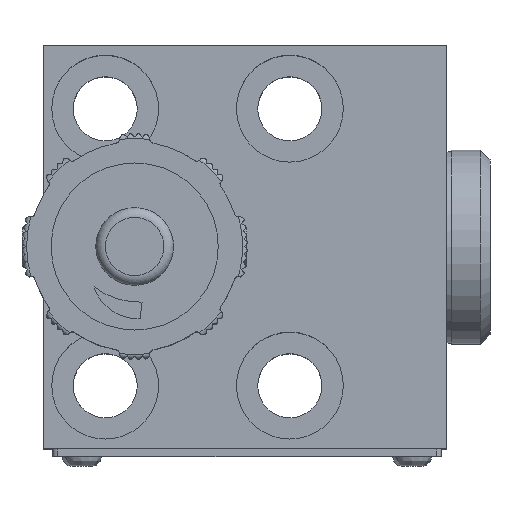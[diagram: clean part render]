
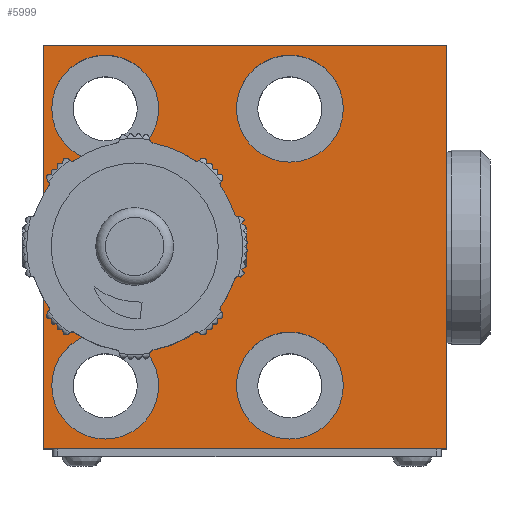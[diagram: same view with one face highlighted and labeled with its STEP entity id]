
A CAD part, top view. The second image highlights one B-rep face of the part: STEP entity #5999.
In plain terms, the highlighted planar face has unit normal (0, 0, 1).
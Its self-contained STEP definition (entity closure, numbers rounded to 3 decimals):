
#1014=LINE('',#23824,#1445);
#1015=LINE('',#23827,#1446);
#1016=LINE('',#23829,#1447);
#1017=LINE('',#23831,#1448);
#1445=VECTOR('',#9330,1.);
#1446=VECTOR('',#9331,1.);
#1447=VECTOR('',#9332,1.);
#1448=VECTOR('',#9333,1.);
#1667=PLANE('',#7587);
#2251=EDGE_LOOP('',(#4093));
#2252=EDGE_LOOP('',(#4094));
#2253=EDGE_LOOP('',(#4095,#4096,#4097,#4098));
#2254=EDGE_LOOP('',(#4099));
#2255=EDGE_LOOP('',(#4100));
#2256=EDGE_LOOP('',(#4101));
#4093=ORIENTED_EDGE('',*,*,#5107,.T.);
#4094=ORIENTED_EDGE('',*,*,#5108,.T.);
#4095=ORIENTED_EDGE('',*,*,#5109,.F.);
#4096=ORIENTED_EDGE('',*,*,#5110,.F.);
#4097=ORIENTED_EDGE('',*,*,#5111,.F.);
#4098=ORIENTED_EDGE('',*,*,#5112,.F.);
#4099=ORIENTED_EDGE('',*,*,#5113,.T.);
#4100=ORIENTED_EDGE('',*,*,#5114,.T.);
#4101=ORIENTED_EDGE('',*,*,#5115,.T.);
#5107=EDGE_CURVE('',#6899,#6899,#5418,.T.);
#5108=EDGE_CURVE('',#6900,#6900,#5419,.T.);
#5109=EDGE_CURVE('',#6901,#6902,#1014,.T.);
#5110=EDGE_CURVE('',#6903,#6901,#1015,.T.);
#5111=EDGE_CURVE('',#6904,#6903,#1016,.T.);
#5112=EDGE_CURVE('',#6902,#6904,#1017,.T.);
#5113=EDGE_CURVE('',#6905,#6905,#5420,.T.);
#5114=EDGE_CURVE('',#6906,#6906,#5421,.T.);
#5115=EDGE_CURVE('',#6907,#6907,#5422,.T.);
#5418=CIRCLE('',#7582,5.5);
#5419=CIRCLE('',#7583,5.5);
#5420=CIRCLE('',#7584,5.5);
#5421=CIRCLE('',#7585,5.5);
#5422=CIRCLE('',#7586,8.5);
#5999=ADVANCED_FACE('',(#6211,#6212,#6213,#6214,#6215,#6216),#1667,.T.);
#6211=FACE_BOUND('',#2251,.T.);
#6212=FACE_BOUND('',#2252,.T.);
#6213=FACE_BOUND('',#2253,.T.);
#6214=FACE_BOUND('',#2254,.T.);
#6215=FACE_BOUND('',#2255,.T.);
#6216=FACE_BOUND('',#2256,.T.);
#6899=VERTEX_POINT('',#23821);
#6900=VERTEX_POINT('',#23823);
#6901=VERTEX_POINT('',#23825);
#6902=VERTEX_POINT('',#23826);
#6903=VERTEX_POINT('',#23828);
#6904=VERTEX_POINT('',#23830);
#6905=VERTEX_POINT('',#23833);
#6906=VERTEX_POINT('',#23835);
#6907=VERTEX_POINT('',#23837);
#7582=AXIS2_PLACEMENT_3D('',#23820,#9326,#9327);
#7583=AXIS2_PLACEMENT_3D('',#23822,#9328,#9329);
#7584=AXIS2_PLACEMENT_3D('',#23832,#9334,#9335);
#7585=AXIS2_PLACEMENT_3D('',#23834,#9336,#9337);
#7586=AXIS2_PLACEMENT_3D('',#23836,#9338,#9339);
#7587=AXIS2_PLACEMENT_3D('',#23838,#9340,#9341);
#9326=DIRECTION('',(0.,0.,-1.));
#9327=DIRECTION('',(1.,0.,0.));
#9328=DIRECTION('',(0.,0.,-1.));
#9329=DIRECTION('',(1.,0.,0.));
#9330=DIRECTION('',(-1.,0.,0.));
#9331=DIRECTION('',(0.,-1.,0.));
#9332=DIRECTION('',(1.,0.,0.));
#9333=DIRECTION('',(0.,1.,0.));
#9334=DIRECTION('',(0.,0.,-1.));
#9335=DIRECTION('',(1.,0.,0.));
#9336=DIRECTION('',(0.,0.,-1.));
#9337=DIRECTION('',(1.,0.,0.));
#9338=DIRECTION('',(0.,0.,-1.));
#9339=DIRECTION('',(-1.,0.,0.));
#9340=DIRECTION('',(0.,0.,1.));
#9341=DIRECTION('',(-1.,0.,0.));
#23820=CARTESIAN_POINT('',(-39.473,49.073,23.));
#23821=CARTESIAN_POINT('',(-33.973,49.073,23.));
#23822=CARTESIAN_POINT('',(-39.473,20.573,23.));
#23823=CARTESIAN_POINT('',(-33.973,20.573,23.));
#23824=CARTESIAN_POINT('',(-23.373,14.073,23.));
#23825=CARTESIAN_POINT('',(-23.373,14.073,23.));
#23826=CARTESIAN_POINT('',(-64.873,14.073,23.));
#23827=CARTESIAN_POINT('',(-23.373,55.573,23.));
#23828=CARTESIAN_POINT('',(-23.373,55.573,23.));
#23829=CARTESIAN_POINT('',(-64.873,55.573,23.));
#23830=CARTESIAN_POINT('',(-64.873,55.573,23.));
#23831=CARTESIAN_POINT('',(-64.873,34.823,23.));
#23832=CARTESIAN_POINT('',(-58.473,20.573,23.));
#23833=CARTESIAN_POINT('',(-52.973,20.573,23.));
#23834=CARTESIAN_POINT('',(-58.473,49.073,23.));
#23835=CARTESIAN_POINT('',(-52.973,49.073,23.));
#23836=CARTESIAN_POINT('',(-55.373,34.823,23.));
#23837=CARTESIAN_POINT('',(-63.873,34.823,23.));
#23838=CARTESIAN_POINT('',(-39.473,49.073,23.));
